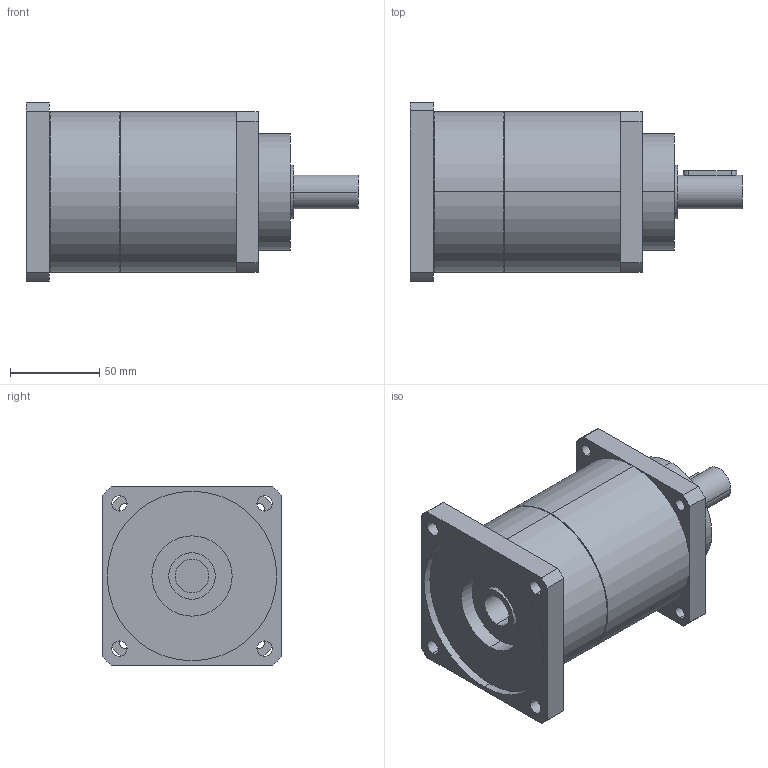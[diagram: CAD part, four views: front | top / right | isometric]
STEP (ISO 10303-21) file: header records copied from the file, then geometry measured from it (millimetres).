
FILE_DESCRIPTION(('CoCreate Modeling STEP Export'),'2;1');
FILE_NAME('GPT90_ig-9-12-16-20-25-28-35-40-50-70-100_19_B5T_19_P07.stp','2015-02-04T11:32:51',(''),(''),'CoCreate Modeling STEP processor for AP214 (Solid Model)','CoCreate Modeling 16.00C 25-Feb-2009 (C) Parametric Technology GmbH','');
FILE_SCHEMA(('AUTOMOTIVE_DESIGN { 1 0 10303 214 1 1 1 1 }'));
Length unit declared in the file: millimetre
Products named in the file (2): GPT90_ig-9-12-16-20-25-28-35-40-50-70-100_19_B5T_19_P07
Assembly tree (1 placements, depth 2):
  GPT90_ig-9-12-16-20-25-28-35-40-50-70-100_19_B5T_19_P07
    GPT90_ig-9-12-16-20-25-28-35-40-50-70-100_19_B5T_19_P07
Bounding box: 186 x 100 x 100 mm (x, y, z)
Volume: 906727.2 mm3; surface area: 75665.8 mm2
Topology: 1 solids, 1 shells, 77 faces, 206 edges, 141 vertices
Faces by surface type: cylinder 46, plane 27, cone 4
Entity records: 2596 total; most frequent: CARTESIAN_POINT 742, ORIENTED_EDGE 412, DIRECTION 324, EDGE_CURVE 206, VERTEX_POINT 141, AXIS2_PLACEMENT_3D 120, EDGE_LOOP 103, VECTOR 84
